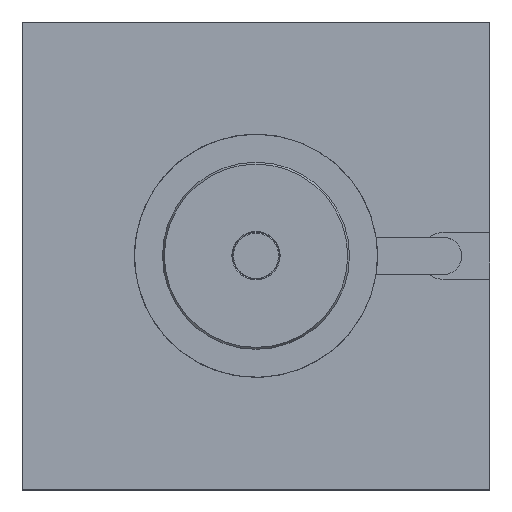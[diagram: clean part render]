
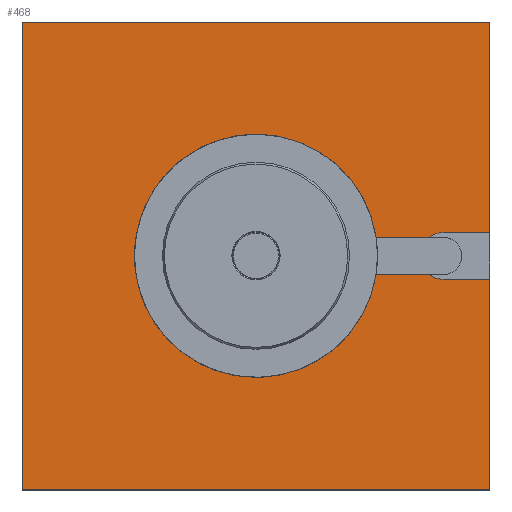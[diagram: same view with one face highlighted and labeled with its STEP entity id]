
A CAD part, top view. The second image highlights one B-rep face of the part: STEP entity #468.
In plain terms, the highlighted planar face has unit normal (0, 0, 1).
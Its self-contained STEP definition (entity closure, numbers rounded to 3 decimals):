
#468 = ADVANCED_FACE( '', ( #1010 ), #1011, .T. );
#1010 = FACE_OUTER_BOUND( '', #1663, .T. );
#1011 = PLANE( '', #1664 );
#1663 = EDGE_LOOP( '', ( #2683, #2684, #2685, #2686, #2687, #2688, #2689, #2690, #2691, #2692, #2693, #2694 ) );
#1664 = AXIS2_PLACEMENT_3D( '', #2695, #2696, #2697 );
#2683 = ORIENTED_EDGE( '', *, *, #3169, .F. );
#2684 = ORIENTED_EDGE( '', *, *, #3114, .F. );
#2685 = ORIENTED_EDGE( '', *, *, #3133, .F. );
#2686 = ORIENTED_EDGE( '', *, *, #3279, .F. );
#2687 = ORIENTED_EDGE( '', *, *, #2974, .T. );
#2688 = ORIENTED_EDGE( '', *, *, #3238, .T. );
#2689 = ORIENTED_EDGE( '', *, *, #2905, .T. );
#2690 = ORIENTED_EDGE( '', *, *, #3280, .T. );
#2691 = ORIENTED_EDGE( '', *, *, #2978, .T. );
#2692 = ORIENTED_EDGE( '', *, *, #3007, .F. );
#2693 = ORIENTED_EDGE( '', *, *, #3281, .F. );
#2694 = ORIENTED_EDGE( '', *, *, #2933, .F. );
#2695 = CARTESIAN_POINT( '', ( -125., -125., 2.5 ) );
#2696 = DIRECTION( '', ( 0., 0., 1. ) );
#2697 = DIRECTION( '', ( 0., -1., 0. ) );
#2905 = EDGE_CURVE( '', #3325, #3326, #3327, .T. );
#2933 = EDGE_CURVE( '', #3373, #3375, #3376, .T. );
#2974 = EDGE_CURVE( '', #3445, #3446, #3447, .T. );
#2978 = EDGE_CURVE( '', #3454, #3452, #3455, .T. );
#3007 = EDGE_CURVE( '', #3499, #3452, #3501, .T. );
#3114 = EDGE_CURVE( '', #3676, #3678, #3679, .T. );
#3133 = EDGE_CURVE( '', #3704, #3676, #3706, .T. );
#3169 = EDGE_CURVE( '', #3678, #3373, #3757, .T. );
#3238 = EDGE_CURVE( '', #3446, #3325, #3850, .T. );
#3279 = EDGE_CURVE( '', #3445, #3704, #3897, .T. );
#3280 = EDGE_CURVE( '', #3326, #3454, #3898, .T. );
#3281 = EDGE_CURVE( '', #3375, #3499, #3899, .T. );
#3325 = VERTEX_POINT( '', #3946 );
#3326 = VERTEX_POINT( '', #3947 );
#3327 = LINE( '', #3948, #3949 );
#3373 = VERTEX_POINT( '', #4002 );
#3375 = VERTEX_POINT( '', #4005 );
#3376 = LINE( '', #4006, #4007 );
#3445 = VERTEX_POINT( '', #4100 );
#3446 = VERTEX_POINT( '', #4101 );
#3447 = LINE( '', #4102, #4103 );
#3452 = VERTEX_POINT( '', #4110 );
#3454 = VERTEX_POINT( '', #4113 );
#3455 = LINE( '', #4114, #4115 );
#3499 = VERTEX_POINT( '', #4174 );
#3501 = LINE( '', #4177, #4178 );
#3676 = VERTEX_POINT( '', #4402 );
#3678 = VERTEX_POINT( '', #4405 );
#3679 = LINE( '', #4406, #4407 );
#3704 = VERTEX_POINT( '', #4445 );
#3706 = CIRCLE( '', #4448, 12.5 );
#3757 = CIRCLE( '', #4507, 65. );
#3850 = LINE( '', #4636, #4637 );
#3897 = LINE( '', #4714, #4715 );
#3898 = LINE( '', #4716, #4717 );
#3899 = CIRCLE( '', #4718, 12.5 );
#3946 = CARTESIAN_POINT( '', ( -125., 125., 2.5 ) );
#3947 = CARTESIAN_POINT( '', ( -125., -125., 2.5 ) );
#3948 = CARTESIAN_POINT( '', ( -125., 125., 2.5 ) );
#3949 = VECTOR( '', #4766, 1000. );
#4002 = CARTESIAN_POINT( '', ( 64.226, -10., 2.5 ) );
#4005 = CARTESIAN_POINT( '', ( 92.5, -10., 2.5 ) );
#4006 = CARTESIAN_POINT( '', ( 0., -10., 2.5 ) );
#4007 = VECTOR( '', #4811, 1000. );
#4100 = CARTESIAN_POINT( '', ( 125., 12.5, 2.5 ) );
#4101 = CARTESIAN_POINT( '', ( 125., 125., 2.5 ) );
#4102 = CARTESIAN_POINT( '', ( 125., -125., 2.5 ) );
#4103 = VECTOR( '', #4864, 1000. );
#4110 = CARTESIAN_POINT( '', ( 125., -12.5, 2.5 ) );
#4113 = CARTESIAN_POINT( '', ( 125., -125., 2.5 ) );
#4114 = CARTESIAN_POINT( '', ( 125., -125., 2.5 ) );
#4115 = VECTOR( '', #4868, 1000. );
#4174 = CARTESIAN_POINT( '', ( 100., -12.5, 2.5 ) );
#4177 = CARTESIAN_POINT( '', ( 100., -12.5, 2.5 ) );
#4178 = VECTOR( '', #4907, 1000. );
#4402 = CARTESIAN_POINT( '', ( 92.5, 10., 2.5 ) );
#4405 = CARTESIAN_POINT( '', ( 64.226, 10., 2.5 ) );
#4406 = CARTESIAN_POINT( '', ( 100., 10., 2.5 ) );
#4407 = VECTOR( '', #5064, 1000. );
#4445 = CARTESIAN_POINT( '', ( 100., 12.5, 2.5 ) );
#4448 = AXIS2_PLACEMENT_3D( '', #5083, #5084, #5085 );
#4507 = AXIS2_PLACEMENT_3D( '', #5133, #5134, #5135 );
#4636 = CARTESIAN_POINT( '', ( 125., 125., 2.5 ) );
#4637 = VECTOR( '', #5198, 1000. );
#4714 = CARTESIAN_POINT( '', ( 148.185, 12.5, 2.5 ) );
#4715 = VECTOR( '', #5237, 1000. );
#4716 = CARTESIAN_POINT( '', ( -125., -125., 2.5 ) );
#4717 = VECTOR( '', #5238, 1000. );
#4718 = AXIS2_PLACEMENT_3D( '', #5239, #5240, #5241 );
#4766 = DIRECTION( '', ( 0., -1., 0. ) );
#4811 = DIRECTION( '', ( 1., 0., 0. ) );
#4864 = DIRECTION( '', ( 0., 1., 0. ) );
#4868 = DIRECTION( '', ( 0., 1., 0. ) );
#4907 = DIRECTION( '', ( 1., 0., 0. ) );
#5064 = DIRECTION( '', ( -1., 0., 0. ) );
#5083 = CARTESIAN_POINT( '', ( 100., 0., 2.5 ) );
#5084 = DIRECTION( '', ( 0., 0., 1. ) );
#5085 = DIRECTION( '', ( 0., 1., 0. ) );
#5133 = CARTESIAN_POINT( '', ( 0., 0., 2.5 ) );
#5134 = DIRECTION( '', ( 0., 0., 1. ) );
#5135 = DIRECTION( '', ( 1., 0., 0. ) );
#5198 = DIRECTION( '', ( -1., 0., 0. ) );
#5237 = DIRECTION( '', ( -1., 0., 0. ) );
#5238 = DIRECTION( '', ( 1., 0., 0. ) );
#5239 = CARTESIAN_POINT( '', ( 100., 0., 2.5 ) );
#5240 = DIRECTION( '', ( 0., 0., 1. ) );
#5241 = DIRECTION( '', ( 0., 1., 0. ) );
